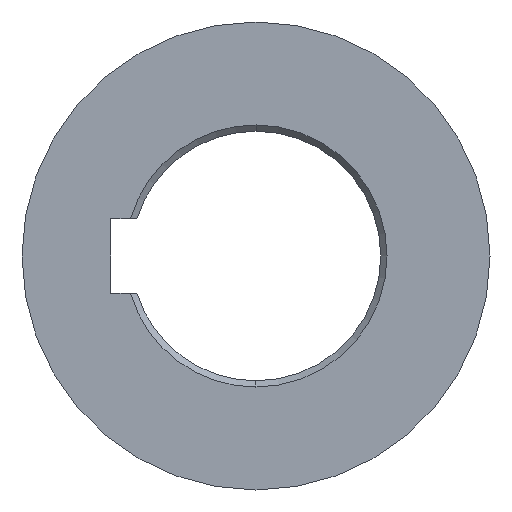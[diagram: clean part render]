
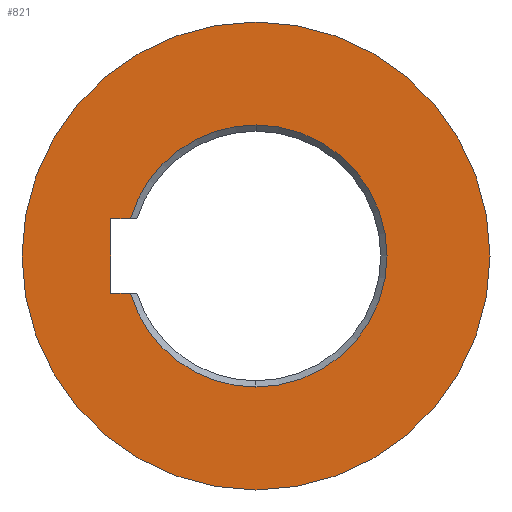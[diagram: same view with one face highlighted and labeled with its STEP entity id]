
A CAD part, left-side view. The second image highlights one B-rep face of the part: STEP entity #821.
In plain terms, the highlighted planar face has unit normal (-1, 0, 0).
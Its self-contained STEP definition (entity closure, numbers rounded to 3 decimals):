
#4 = VERTEX_POINT ( 'NONE', #771 ) ;
#26 = CARTESIAN_POINT ( 'NONE',  ( 0., 0., 0. ) ) ;
#43 = AXIS2_PLACEMENT_3D ( 'NONE', #398, #881, #369 ) ;
#51 = ORIENTED_EDGE ( 'NONE', *, *, #855, .F. ) ;
#79 = EDGE_CURVE ( 'NONE', #716, #555, #469, .T. ) ;
#82 = DIRECTION ( 'NONE',  ( 1., 0., 0. ) ) ;
#100 = CARTESIAN_POINT ( 'NONE',  ( 0., 13.3, -6. ) ) ;
#116 = DIRECTION ( 'NONE',  ( -1., 0., 0. ) ) ;
#119 = CIRCLE ( 'NONE', #580, 37.5 ) ;
#128 = CARTESIAN_POINT ( 'NONE',  ( 0., 20.125, 6. ) ) ;
#131 = CIRCLE ( 'NONE', #43, 37.5 ) ;
#155 = DIRECTION ( 'NONE',  ( 0., 0., -1. ) ) ;
#173 = DIRECTION ( 'NONE',  ( 0., 0., -1. ) ) ;
#179 = EDGE_CURVE ( 'NONE', #797, #212, #778, .T. ) ;
#185 = CIRCLE ( 'NONE', #938, 21. ) ;
#190 = CIRCLE ( 'NONE', #724, 21. ) ;
#204 = AXIS2_PLACEMENT_3D ( 'NONE', #400, #698, #781 ) ;
#207 = ORIENTED_EDGE ( 'NONE', *, *, #179, .F. ) ;
#212 = VERTEX_POINT ( 'NONE', #437 ) ;
#237 = VECTOR ( 'NONE', #239, 1000. ) ;
#239 = DIRECTION ( 'NONE',  ( 0., -1., 0. ) ) ;
#258 = EDGE_CURVE ( 'NONE', #555, #486, #185, .T. ) ;
#276 = CARTESIAN_POINT ( 'NONE',  ( 0., 0., 0. ) ) ;
#293 = EDGE_CURVE ( 'NONE', #516, #326, #131, .T. ) ;
#301 = EDGE_LOOP ( 'NONE', ( #674, #935 ) ) ;
#318 = ORIENTED_EDGE ( 'NONE', *, *, #258, .T. ) ;
#320 = FACE_BOUND ( 'NONE', #466, .T. ) ;
#326 = VERTEX_POINT ( 'NONE', #907 ) ;
#342 = CARTESIAN_POINT ( 'NONE',  ( 0., 0., -21. ) ) ;
#360 = VECTOR ( 'NONE', #939, 1000. ) ;
#369 = DIRECTION ( 'NONE',  ( 0., 0., 1. ) ) ;
#398 = CARTESIAN_POINT ( 'NONE',  ( 0., 0., 0. ) ) ;
#400 = CARTESIAN_POINT ( 'NONE',  ( 0., 0., 0. ) ) ;
#405 = CARTESIAN_POINT ( 'NONE',  ( 0., 23.3, 6. ) ) ;
#437 = CARTESIAN_POINT ( 'NONE',  ( 0., 23.3, -6. ) ) ;
#442 = EDGE_CURVE ( 'NONE', #326, #516, #119, .T. ) ;
#466 = EDGE_LOOP ( 'NONE', ( #494, #318, #651, #51, #207, #806 ) ) ;
#467 = DIRECTION ( 'NONE',  ( 0., 0., -1. ) ) ;
#469 = CIRCLE ( 'NONE', #204, 21. ) ;
#479 = FACE_OUTER_BOUND ( 'NONE', #301, .T. ) ;
#485 = CARTESIAN_POINT ( 'NONE',  ( 0., 0., 21. ) ) ;
#486 = VERTEX_POINT ( 'NONE', #342 ) ;
#494 = ORIENTED_EDGE ( 'NONE', *, *, #79, .T. ) ;
#495 = CARTESIAN_POINT ( 'NONE',  ( 0., 0., 37.5 ) ) ;
#516 = VERTEX_POINT ( 'NONE', #495 ) ;
#524 = CARTESIAN_POINT ( 'NONE',  ( 0., 0., 0. ) ) ;
#542 = DIRECTION ( 'NONE',  ( 1., 0., 0. ) ) ;
#555 = VERTEX_POINT ( 'NONE', #485 ) ;
#556 = CARTESIAN_POINT ( 'NONE',  ( 0., 13.3, 6. ) ) ;
#560 = LINE ( 'NONE', #100, #237 ) ;
#580 = AXIS2_PLACEMENT_3D ( 'NONE', #276, #116, #844 ) ;
#606 = CARTESIAN_POINT ( 'NONE',  ( 0., 20., 0. ) ) ;
#608 = AXIS2_PLACEMENT_3D ( 'NONE', #606, #82, #155 ) ;
#612 = PLANE ( 'NONE',  #608 ) ;
#623 = DIRECTION ( 'NONE',  ( 1., 0., 0. ) ) ;
#627 = LINE ( 'NONE', #556, #773 ) ;
#651 = ORIENTED_EDGE ( 'NONE', *, *, #868, .T. ) ;
#674 = ORIENTED_EDGE ( 'NONE', *, *, #293, .T. ) ;
#698 = DIRECTION ( 'NONE',  ( 1., 0., 0. ) ) ;
#716 = VERTEX_POINT ( 'NONE', #128 ) ;
#724 = AXIS2_PLACEMENT_3D ( 'NONE', #26, #542, #467 ) ;
#762 = EDGE_CURVE ( 'NONE', #716, #797, #627, .T. ) ;
#771 = CARTESIAN_POINT ( 'NONE',  ( 0., 20.125, -6. ) ) ;
#773 = VECTOR ( 'NONE', #834, 1000. ) ;
#778 = LINE ( 'NONE', #860, #360 ) ;
#781 = DIRECTION ( 'NONE',  ( 0., 0., -1. ) ) ;
#797 = VERTEX_POINT ( 'NONE', #405 ) ;
#806 = ORIENTED_EDGE ( 'NONE', *, *, #762, .F. ) ;
#821 = ADVANCED_FACE ( 'NONE', ( #320, #479 ), #612, .F. ) ;
#834 = DIRECTION ( 'NONE',  ( 0., 1., 0. ) ) ;
#844 = DIRECTION ( 'NONE',  ( 0., 0., 1. ) ) ;
#855 = EDGE_CURVE ( 'NONE', #212, #4, #560, .T. ) ;
#860 = CARTESIAN_POINT ( 'NONE',  ( 0., 23.3, -6. ) ) ;
#868 = EDGE_CURVE ( 'NONE', #486, #4, #190, .T. ) ;
#881 = DIRECTION ( 'NONE',  ( -1., 0., 0. ) ) ;
#907 = CARTESIAN_POINT ( 'NONE',  ( 0., 0., -37.5 ) ) ;
#935 = ORIENTED_EDGE ( 'NONE', *, *, #442, .T. ) ;
#938 = AXIS2_PLACEMENT_3D ( 'NONE', #524, #623, #173 ) ;
#939 = DIRECTION ( 'NONE',  ( 0., 0., -1. ) ) ;
